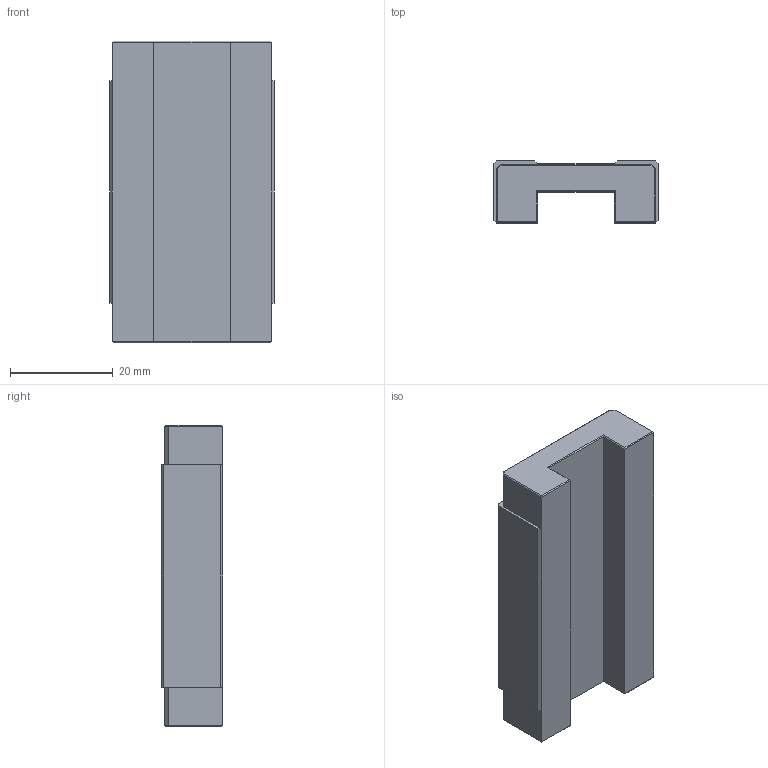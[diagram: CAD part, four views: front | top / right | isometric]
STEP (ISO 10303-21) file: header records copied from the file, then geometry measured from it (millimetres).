
FILE_DESCRIPTION(/* description */ (''),/* implementation_level */ '2;1');
FILE_NAME(/* name */ 'C:\Users\daviddillkoetter\ownCloud\Kamp und Kötter\Artikel\Miniaturfuehrungen_KPM\Step\KPMW-15C-BLZ0.stp',/* time_stamp */ '2020-12-07T12:25:31+01:00',/* author */ ('daviddillkoetter'),/* organization */ (''),/* preprocessor_version */ 'ST-DEVELOPER v18.1',/* originating_system */ 'Autodesk Inventor 2021',/* authorisation */ '');
FILE_SCHEMA (('AUTOMOTIVE_DESIGN { 1 0 10303 214 3 1 1 }'));
Length unit declared in the file: millimetre
Products named in the file (1): KPMW-15C-BLZ0
Bounding box: 32 x 12 x 58.8 mm (x, y, z)
Volume: 16343.9 mm3; surface area: 6486.6 mm2
Topology: 1 solids, 1 shells, 62 faces, 152 edges, 92 vertices
Faces by surface type: plane 50, cone 8, cylinder 4
Full cylindrical faces by diameter (mm): 2.459 x4
Entity records: 1819 total; most frequent: CARTESIAN_POINT 303, ORIENTED_EDGE 296, DIRECTION 290, EDGE_CURVE 148, LINE 132, VECTOR 132, VERTEX_POINT 92, AXIS2_PLACEMENT_3D 79
